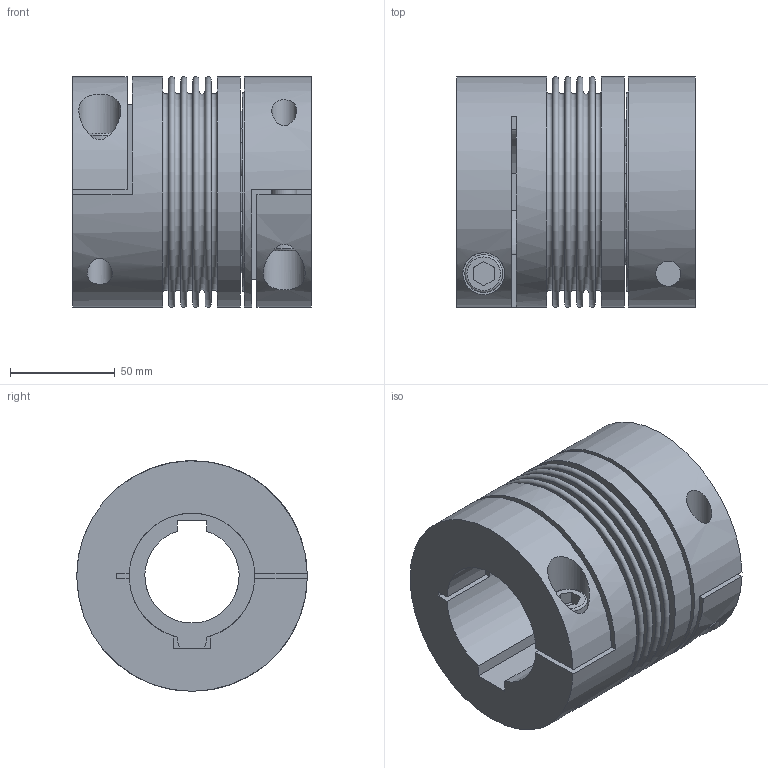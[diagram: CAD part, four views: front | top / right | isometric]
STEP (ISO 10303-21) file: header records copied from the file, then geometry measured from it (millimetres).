
FILE_DESCRIPTION(/* description */ ('STEP AP214'),/* implementation_level */ '2;1');
FILE_NAME(/* name */ 'C:\Diequa Files\DieQua Coupling\BCB\STP\BCB.300.114.#.#.stp',/* time_stamp */ '2018-11-27T08:39:31-06:00',/* author */ ('DiequaCAD'),/* organization */ (''),/* preprocessor_version */ 'ST-DEVELOPER v17.2',/* originating_system */ 'Autodesk Inventor 2019',/* authorisation */ ' ');
FILE_SCHEMA (('AUTOMOTIVE_DESIGN { 1 0 10303 214 3 1 1 }'));
Length unit declared in the file: millimetre
Products named in the file (3): BK5_300_114_60_PFN_45_PFN_90; 2018_11_09__18-12-18-242; 2018_11_09__18-12-18-242_1
Assembly tree (2 placements, depth 2):
  BK5_300_114_60_PFN_45_PFN_90
    2018_11_09__18-12-18-242
    2018_11_09__18-12-18-242_1
Bounding box: 114 x 110 x 110 mm (x, y, z)
Volume: 694333.6 mm3; surface area: 143540.4 mm2
Topology: 2 solids, 2 shells, 116 faces, 293 edges, 202 vertices
Faces by surface type: plane 61, cone 23, cylinder 21, torus 11
Full cylindrical faces by diameter (mm): 12 x3, 18 x2, 20 x2, 78 x1, 92 x1, 95 x1, 110 x3
Entity records: 3883 total; most frequent: CARTESIAN_POINT 842, DIRECTION 650, ORIENTED_EDGE 586, EDGE_CURVE 293, AXIS2_PLACEMENT_3D 266, VERTEX_POINT 202, CIRCLE 145, EDGE_LOOP 143
